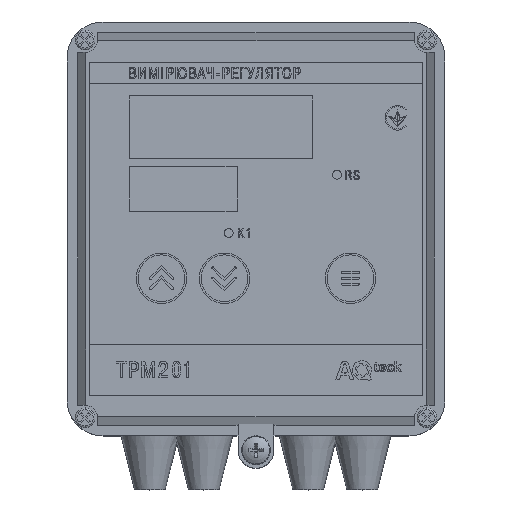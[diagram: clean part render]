
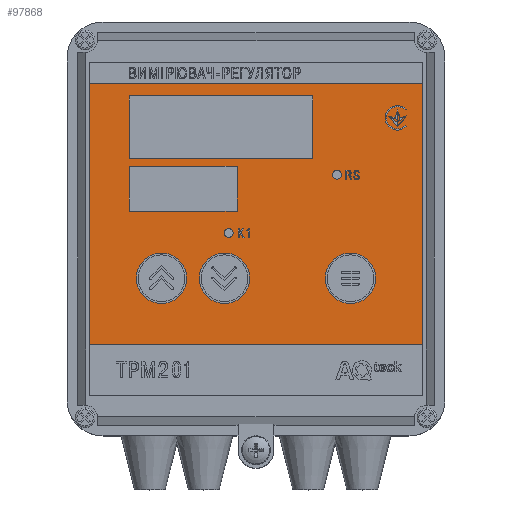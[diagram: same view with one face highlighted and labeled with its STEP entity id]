
A CAD part, top view. The second image highlights one B-rep face of the part: STEP entity #97868.
In plain terms, the highlighted planar face has unit normal (0, 0, 1) as drawn and (0, 1, 0) by its records, which use the part's own axes.
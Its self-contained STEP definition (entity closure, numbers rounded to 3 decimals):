
#207 = ORIENTED_EDGE ( 'NONE', *, *, #13398, .F. ) ;
#434 = LINE ( 'NONE', #1321, #37122 ) ;
#1321 = CARTESIAN_POINT ( 'NONE',  ( -46.25, 0.1, 46.25 ) ) ;
#1498 = VECTOR ( 'NONE', #165627, 1000. ) ;
#3168 = VERTEX_POINT ( 'NONE', #156647 ) ;
#3595 = EDGE_LOOP ( 'NONE', ( #63744, #16718, #128415, #152284 ) ) ;
#4711 = FACE_BOUND ( 'NONE', #104043, .T. ) ;
#7986 = EDGE_CURVE ( 'NONE', #168757, #38843, #131093, .T. ) ;
#9809 = CARTESIAN_POINT ( 'NONE',  ( -35.25, 0.1, -36.9 ) ) ;
#13398 = EDGE_CURVE ( 'NONE', #87921, #148950, #117129, .T. ) ;
#13807 = CARTESIAN_POINT ( 'NONE',  ( -5.25, 0.1, -4.85 ) ) ;
#15571 = VECTOR ( 'NONE', #172905, 1000. ) ;
#15951 = EDGE_LOOP ( 'NONE', ( #46140 ) ) ;
#16046 = CARTESIAN_POINT ( 'NONE',  ( 22.5, 0.1, -15. ) ) ;
#16614 = LINE ( 'NONE', #69751, #163569 ) ;
#16718 = ORIENTED_EDGE ( 'NONE', *, *, #144652, .T. ) ;
#18795 = PLANE ( 'NONE',  #107727 ) ;
#19363 = ORIENTED_EDGE ( 'NONE', *, *, #122514, .F. ) ;
#19382 = EDGE_CURVE ( 'NONE', #116849, #168667, #24554, .T. ) ;
#21497 = ORIENTED_EDGE ( 'NONE', *, *, #172058, .F. ) ;
#24367 = LINE ( 'NONE', #146370, #15571 ) ;
#24554 = LINE ( 'NONE', #54495, #142451 ) ;
#29808 = EDGE_CURVE ( 'NONE', #38001, #111675, #98074, .T. ) ;
#30170 = CARTESIAN_POINT ( 'NONE',  ( 15.75, 0.1, -36.9 ) ) ;
#30377 = FACE_BOUND ( 'NONE', #88180, .T. ) ;
#30661 = VERTEX_POINT ( 'NONE', #168418 ) ;
#32111 = FACE_OUTER_BOUND ( 'NONE', #3595, .T. ) ;
#33796 = LINE ( 'NONE', #166486, #1498 ) ;
#37122 = VECTOR ( 'NONE', #107511, 1000. ) ;
#38001 = VERTEX_POINT ( 'NONE', #68726 ) ;
#38843 = VERTEX_POINT ( 'NONE', #103034 ) ;
#46140 = ORIENTED_EDGE ( 'NONE', *, *, #111399, .F. ) ;
#46601 = CARTESIAN_POINT ( 'NONE',  ( -5.25, 0.1, -17.35 ) ) ;
#51554 = DIRECTION ( 'NONE',  ( -1., 0., 0. ) ) ;
#53862 = CARTESIAN_POINT ( 'NONE',  ( 15.75, 0.1, -36.9 ) ) ;
#54495 = CARTESIAN_POINT ( 'NONE',  ( 46.25, 0.1, 46.25 ) ) ;
#56718 = DIRECTION ( 'NONE',  ( 0., 0., -1. ) ) ;
#57610 = CIRCLE ( 'NONE', #88646, 1.25 ) ;
#58659 = CARTESIAN_POINT ( 'NONE',  ( 0., 0.1, 0. ) ) ;
#58951 = EDGE_CURVE ( 'NONE', #111675, #87921, #33796, .T. ) ;
#59465 = CARTESIAN_POINT ( 'NONE',  ( 46.25, 0.1, 46.25 ) ) ;
#60342 = LINE ( 'NONE', #59465, #165994 ) ;
#63744 = ORIENTED_EDGE ( 'NONE', *, *, #162758, .T. ) ;
#63808 = DIRECTION ( 'NONE',  ( -1., 0., 0. ) ) ;
#64381 = VECTOR ( 'NONE', #63808, 1000. ) ;
#65395 = ORIENTED_EDGE ( 'NONE', *, *, #81306, .F. ) ;
#65645 = EDGE_CURVE ( 'NONE', #30661, #122145, #112515, .T. ) ;
#68726 = CARTESIAN_POINT ( 'NONE',  ( -35.25, 0.1, -4.85 ) ) ;
#69751 = CARTESIAN_POINT ( 'NONE',  ( -35.25, 0.1, -17.35 ) ) ;
#72795 = ORIENTED_EDGE ( 'NONE', *, *, #145977, .F. ) ;
#72825 = FACE_BOUND ( 'NONE', #128730, .T. ) ;
#79951 = LINE ( 'NONE', #93232, #80367 ) ;
#80367 = VECTOR ( 'NONE', #51554, 1000. ) ;
#81306 = EDGE_CURVE ( 'NONE', #122145, #168757, #135502, .T. ) ;
#82179 = DIRECTION ( 'NONE',  ( 0., 0., 1. ) ) ;
#82413 = CARTESIAN_POINT ( 'NONE',  ( -35.25, 0.1, -17.35 ) ) ;
#83929 = VERTEX_POINT ( 'NONE', #151065 ) ;
#84780 = VERTEX_POINT ( 'NONE', #127146 ) ;
#86067 = DIRECTION ( 'NONE',  ( 0., 0., 1. ) ) ;
#87921 = VERTEX_POINT ( 'NONE', #46601 ) ;
#88180 = EDGE_LOOP ( 'NONE', ( #72795 ) ) ;
#88646 = AXIS2_PLACEMENT_3D ( 'NONE', #16046, #99243, #153103 ) ;
#91492 = CARTESIAN_POINT ( 'NONE',  ( -35.25, 0.1, -17.35 ) ) ;
#92956 = ORIENTED_EDGE ( 'NONE', *, *, #29808, .F. ) ;
#93232 = CARTESIAN_POINT ( 'NONE',  ( 46.25, 0.1, -46.25 ) ) ;
#97778 = DIRECTION ( 'NONE',  ( 0., 1., 0. ) ) ;
#97868 = ADVANCED_FACE ( 'NONE', ( #30377, #4711, #72825, #125033, #32111 ), #18795, .T. ) ;
#98074 = LINE ( 'NONE', #99818, #128843 ) ;
#99243 = DIRECTION ( 'NONE',  ( 0., 1., 0. ) ) ;
#99818 = CARTESIAN_POINT ( 'NONE',  ( -35.25, 0.1, -4.85 ) ) ;
#101315 = DIRECTION ( 'NONE',  ( -1., 0., 0. ) ) ;
#102417 = CARTESIAN_POINT ( 'NONE',  ( 46.25, 0.1, 46.25 ) ) ;
#103034 = CARTESIAN_POINT ( 'NONE',  ( -35.25, 0.1, -36.9 ) ) ;
#104043 = EDGE_LOOP ( 'NONE', ( #21497, #149570, #65395, #156583 ) ) ;
#105313 = CARTESIAN_POINT ( 'NONE',  ( 46.25, 0.1, -46.25 ) ) ;
#106447 = EDGE_CURVE ( 'NONE', #168667, #3168, #79951, .T. ) ;
#107511 = DIRECTION ( 'NONE',  ( 0., 0., 1. ) ) ;
#107727 = AXIS2_PLACEMENT_3D ( 'NONE', #58659, #112601, #86067 ) ;
#111399 = EDGE_CURVE ( 'NONE', #84780, #84780, #57610, .T. ) ;
#111675 = VERTEX_POINT ( 'NONE', #13807 ) ;
#112179 = DIRECTION ( 'NONE',  ( 1., 0., 0. ) ) ;
#112515 = LINE ( 'NONE', #151445, #140565 ) ;
#112601 = DIRECTION ( 'NONE',  ( 0., 1., 0. ) ) ;
#116849 = VERTEX_POINT ( 'NONE', #102417 ) ;
#117129 = LINE ( 'NONE', #91492, #156739 ) ;
#120934 = DIRECTION ( 'NONE',  ( 0., 0., -1. ) ) ;
#122145 = VERTEX_POINT ( 'NONE', #172592 ) ;
#122514 = EDGE_CURVE ( 'NONE', #148950, #38001, #16614, .T. ) ;
#122545 = DIRECTION ( 'NONE',  ( 0., 0., 1. ) ) ;
#125033 = FACE_BOUND ( 'NONE', #15951, .T. ) ;
#125151 = CARTESIAN_POINT ( 'NONE',  ( -7.6, 0.1, 1.2 ) ) ;
#127146 = CARTESIAN_POINT ( 'NONE',  ( 22.5, 0.1, -13.75 ) ) ;
#128415 = ORIENTED_EDGE ( 'NONE', *, *, #19382, .T. ) ;
#128730 = EDGE_LOOP ( 'NONE', ( #19363, #207, #158881, #92956 ) ) ;
#128843 = VECTOR ( 'NONE', #112179, 1000. ) ;
#130648 = CARTESIAN_POINT ( 'NONE',  ( -46.25, 0.1, 46.25 ) ) ;
#131093 = LINE ( 'NONE', #9809, #64381 ) ;
#135502 = LINE ( 'NONE', #30170, #137451 ) ;
#137451 = VECTOR ( 'NONE', #56718, 1000. ) ;
#139098 = DIRECTION ( 'NONE',  ( 1., 0., 0. ) ) ;
#140565 = VECTOR ( 'NONE', #139098, 1000. ) ;
#142451 = VECTOR ( 'NONE', #120934, 1000. ) ;
#144652 = EDGE_CURVE ( 'NONE', #153303, #116849, #60342, .T. ) ;
#145977 = EDGE_CURVE ( 'NONE', #83929, #83929, #160560, .T. ) ;
#146370 = CARTESIAN_POINT ( 'NONE',  ( -35.25, 0.1, -36.9 ) ) ;
#148950 = VERTEX_POINT ( 'NONE', #82413 ) ;
#149570 = ORIENTED_EDGE ( 'NONE', *, *, #7986, .F. ) ;
#151065 = CARTESIAN_POINT ( 'NONE',  ( -7.6, 0.1, 2.45 ) ) ;
#151445 = CARTESIAN_POINT ( 'NONE',  ( -35.25, 0.1, -19.4 ) ) ;
#152284 = ORIENTED_EDGE ( 'NONE', *, *, #106447, .T. ) ;
#153103 = DIRECTION ( 'NONE',  ( 0., 0., 1. ) ) ;
#153303 = VERTEX_POINT ( 'NONE', #130648 ) ;
#156583 = ORIENTED_EDGE ( 'NONE', *, *, #65645, .F. ) ;
#156647 = CARTESIAN_POINT ( 'NONE',  ( -46.25, 0.1, -46.25 ) ) ;
#156739 = VECTOR ( 'NONE', #101315, 1000. ) ;
#158881 = ORIENTED_EDGE ( 'NONE', *, *, #58951, .F. ) ;
#160560 = CIRCLE ( 'NONE', #175063, 1.25 ) ;
#162758 = EDGE_CURVE ( 'NONE', #3168, #153303, #434, .T. ) ;
#163569 = VECTOR ( 'NONE', #82179, 1000. ) ;
#165627 = DIRECTION ( 'NONE',  ( 0., 0., -1. ) ) ;
#165994 = VECTOR ( 'NONE', #166476, 1000. ) ;
#166476 = DIRECTION ( 'NONE',  ( 1., 0., 0. ) ) ;
#166486 = CARTESIAN_POINT ( 'NONE',  ( -5.25, 0.1, -17.35 ) ) ;
#168418 = CARTESIAN_POINT ( 'NONE',  ( -35.25, 0.1, -19.4 ) ) ;
#168667 = VERTEX_POINT ( 'NONE', #105313 ) ;
#168757 = VERTEX_POINT ( 'NONE', #53862 ) ;
#172058 = EDGE_CURVE ( 'NONE', #38843, #30661, #24367, .T. ) ;
#172592 = CARTESIAN_POINT ( 'NONE',  ( 15.75, 0.1, -19.4 ) ) ;
#172905 = DIRECTION ( 'NONE',  ( 0., 0., 1. ) ) ;
#175063 = AXIS2_PLACEMENT_3D ( 'NONE', #125151, #97778, #122545 ) ;
